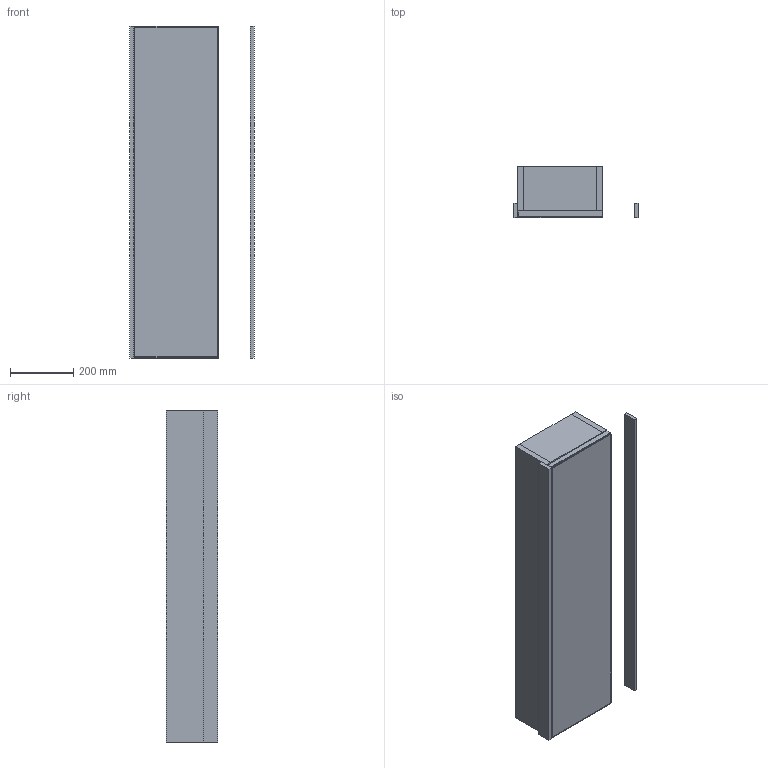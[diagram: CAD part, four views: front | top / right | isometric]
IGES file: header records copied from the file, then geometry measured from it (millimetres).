
Start section: Data from Parasolid IGES Translator 19.0.9, Copyright(c) 2006 Siemens PL M Software. All Rights Reserved.
Global section: file name: noorth-mirror-H 105 D 4,5-16 W 27_9130.igs; native system: By Siemens PLM Incorporated; preprocessor: XPlus GENERIC/IGES 19.0.9; author: Noname; organization: Noname; date: 20200519.100850; units: metre
Bounding box: 393.82 x 162 x 1050 mm (x, y, z)
Volume: 14656591.9 mm3; surface area: 2921954.6 mm2
Topology: 13 solids, 13 shells, 162 faces, 312 edges, 176 vertices
Faces by surface type: plane 162
